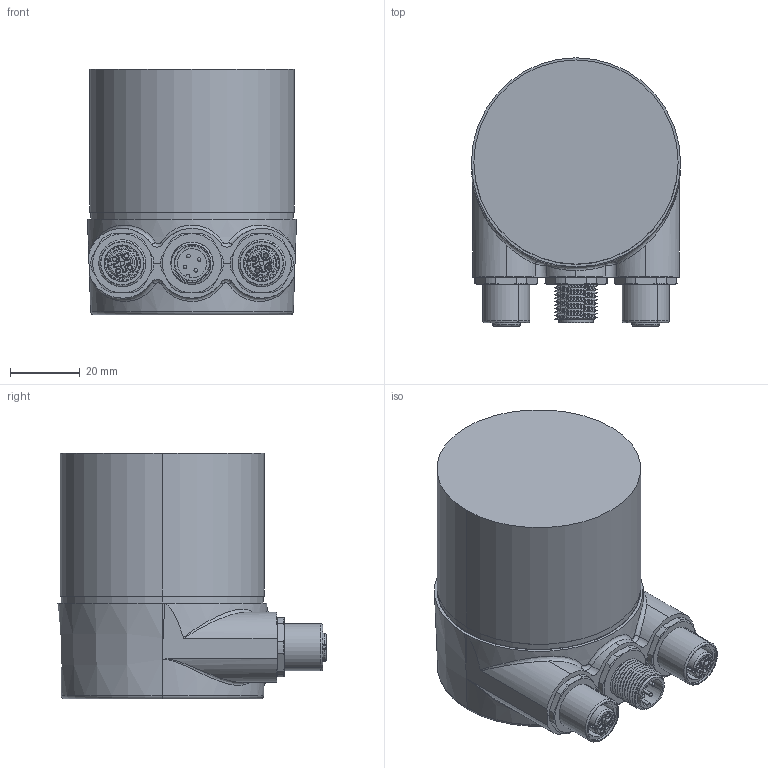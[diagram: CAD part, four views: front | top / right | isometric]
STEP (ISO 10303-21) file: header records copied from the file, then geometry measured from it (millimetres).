
FILE_DESCRIPTION (( 'STEP AP203' ), '1' );
FILE_NAME ('Drawing-OC-5-EI-705-SZM-EIREIR-Y-PRM-N.STEP', '2013-09-26T11:36:11', ( 'Admin' ), ( 'Microsoft' ), 'SwSTEP 2.0', 'SolidWorks 2006104', '' );
FILE_SCHEMA (( 'CONFIG_CONTROL_DESIGN' ));
Length unit declared in the file: millimetre
Products named in the file (1): Drawing-OC-5-EI-705-SZM-EIREIR-Y-PRM-N
Bounding box: 60 x 77 x 70.5 mm (x, y, z)
Volume: 53680.3 mm3; surface area: 54674.8 mm2
Topology: 14 solids, 14 shells, 1289 faces, 3349 edges, 2161 vertices
Faces by surface type: cylinder 611, plane 315, cone 209, bspline 97, torus 53, sphere 4
Entity records: 68024 total; most frequent: CARTESIAN_POINT 37458, ORIENTED_EDGE 6666, DIRECTION 6088, EDGE_CURVE 3333, AXIS2_PLACEMENT_3D 2450, VERTEX_POINT 2153, EDGE_LOOP 1424, ADVANCED_FACE 1289
